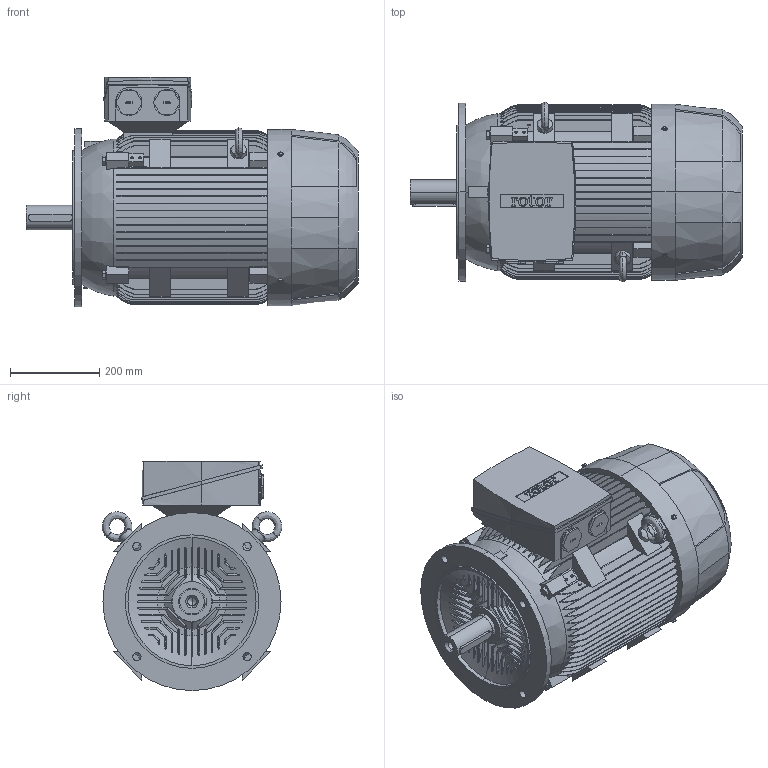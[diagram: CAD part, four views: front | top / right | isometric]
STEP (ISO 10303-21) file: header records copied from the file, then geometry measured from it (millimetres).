
FILE_DESCRIPTION (( 'STEP AP203' ), '1' );
FILE_NAME ('6RN200L02E36 IM3041.STEP', '2017-01-11T07:03:30', ( 'rotor' ), ( 'Hewlett-Packard Company' ), 'SwSTEP 2.0', 'SolidWorks 2015', '' );
FILE_SCHEMA (( 'CONFIG_CONTROL_DESIGN' ));
Products named in the file (1): 6RN200L02E36 IM3041
Bounding box: 746 x 403.47 x 515 mm (x, y, z)
Volume: 71127268.2 mm3; surface area: 2142911.8 mm2
Topology: 1 solids, 1 shells, 1314 faces, 3654 edges, 2396 vertices
Faces by surface type: plane 798, cylinder 288, bspline 200, cone 28
Entity records: 51539 total; most frequent: CARTESIAN_POINT 20572, ORIENTED_EDGE 7304, DIRECTION 5274, EDGE_CURVE 3652, VERTEX_POINT 2396, VECTOR 1876, LINE 1876, AXIS2_PLACEMENT_3D 1699
